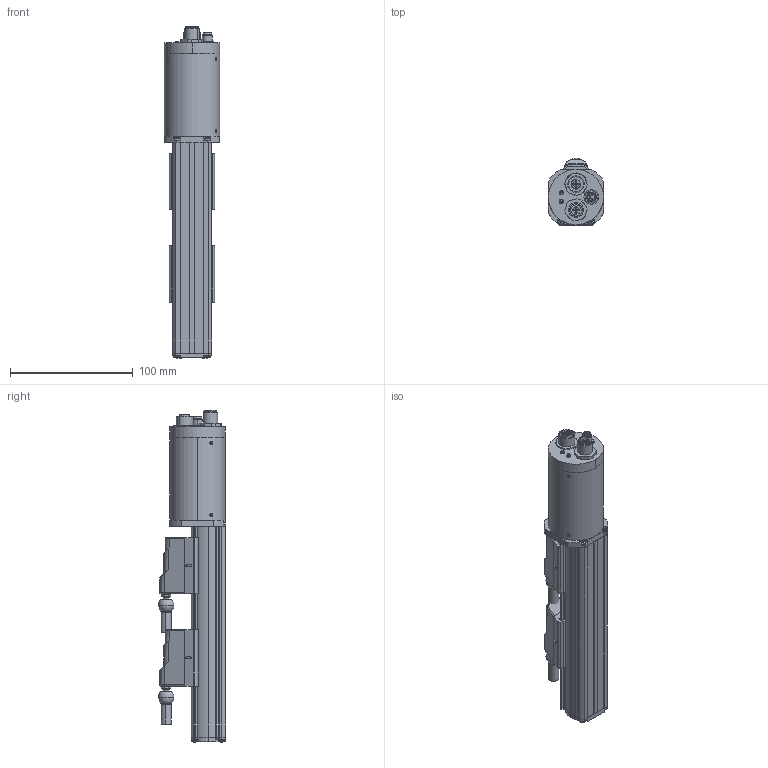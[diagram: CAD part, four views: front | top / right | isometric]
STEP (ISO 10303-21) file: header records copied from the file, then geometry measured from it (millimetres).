
FILE_DESCRIPTION (( 'STEP AP203' ), '1' );
FILE_NAME ('MK-4-P-0075.STEP', '2015-01-08T08:49:25', ( 'User' ), ( '' ), 'SwSTEP 2.0', 'SolidWorks 2014', '' );
FILE_SCHEMA (( 'CONFIG_CONTROL_DESIGN' ));
Length unit declared in the file: millimetre
Products named in the file (14): CON401X; MIM679X_VITE M2,5X10 TORX TRILOBATA DIN7500C; CON402X; CUS639X; MIM230X_MIM297; NIP740X_R2; MK-4-P-0075; CUS2002X_Rev 2; PCUR036X; 51021X; TES420X; TES679X_Rev 1; CON400X; MIM679X_ISO 7045 - M2.5 x 8 - Z --- 8S
Assembly tree (26 placements, depth 2):
  MK-4-P-0075
    TES679X_Rev 1
    MIM679X_ISO 7045 - M2.5 x 8 - Z --- 8S  x4
    MIM679X_VITE M2,5X10 TORX TRILOBATA DIN7500C  x4
    CUS639X
    NIP740X_R2
    CUS2002X_Rev 2
    PCUR036X  x2
    51021X  x2
    TES420X
    CON400X
    CON401X
    CON402X
    MIM230X_MIM297  x6
Bounding box: 45 x 54.88 x 270.55 mm (x, y, z)
Volume: 346260.4 mm3; surface area: 104666.7 mm2
Topology: 47 solids, 66 shells, 3331 faces, 8208 edges, 5016 vertices
Faces by surface type: cone 1101, cylinder 1055, plane 959, torus 100, sphere 78, bspline 38
Entity records: 49702 total; most frequent: CARTESIAN_POINT 9131, DIRECTION 8834, ORIENTED_EDGE 7686, EDGE_CURVE 3847, AXIS2_PLACEMENT_3D 3475, VERTEX_POINT 2418, VECTOR 1884, LINE 1884
